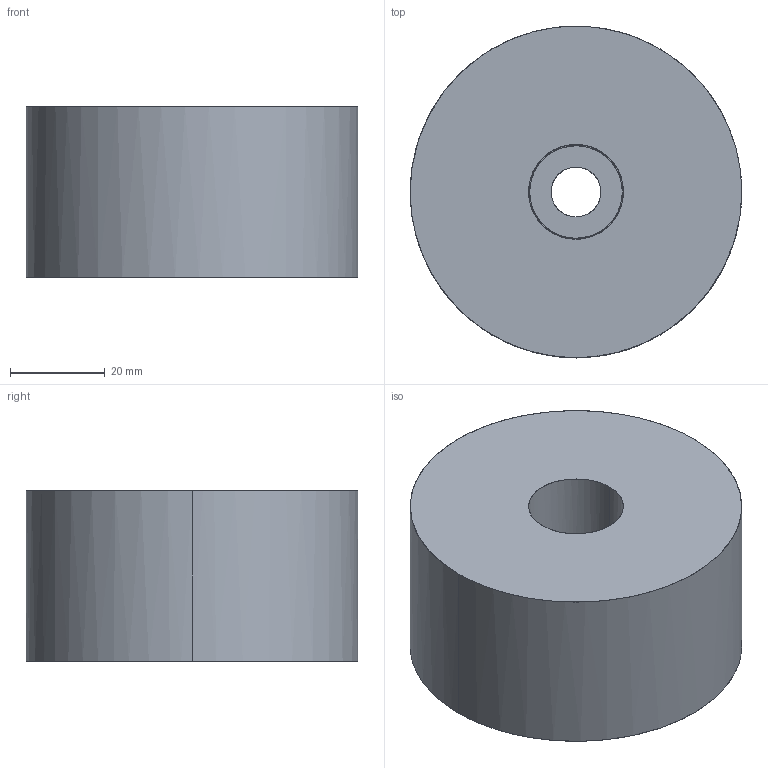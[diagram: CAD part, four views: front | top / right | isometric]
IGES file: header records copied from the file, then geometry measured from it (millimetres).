
Global section: file name: E:\UnigraphicsGraphicData\MISUMI_PRESS-PARTS\IGES\3d_dusa70_06992_r00.igs; native system: NX V5.0; preprocessor: UGS NX IGES V5.0; author: MISUMI; date: 20110105.160603; units: millimetre
Bounding box: 70 x 70 x 36 mm (x, y, z)
Surface area: 19192.2 mm2 (no closed solid volume)
Topology: 0 solids, 0 shells, 18 faces, 160 edges, 160 vertices
Faces by surface type: bspline 18
